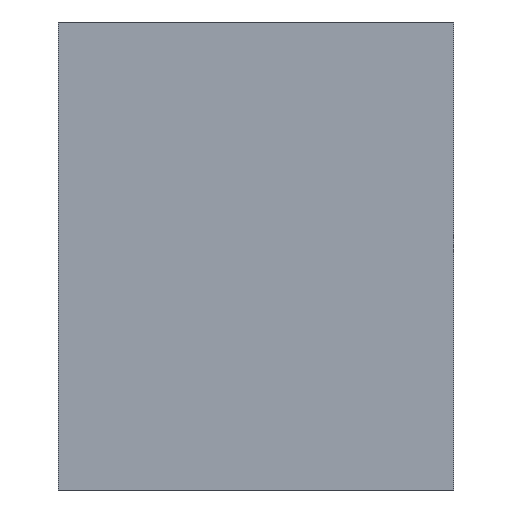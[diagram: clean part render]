
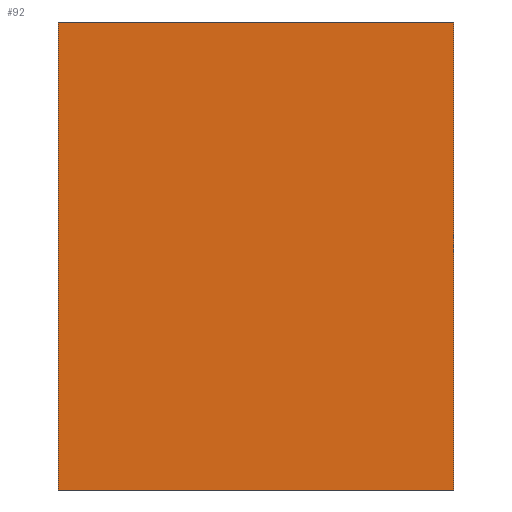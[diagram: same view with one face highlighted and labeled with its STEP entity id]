
A CAD part, top view. The second image highlights one B-rep face of the part: STEP entity #92.
In plain terms, the highlighted planar face has unit normal (0, 0, 1).
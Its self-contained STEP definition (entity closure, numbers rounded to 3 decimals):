
#53=CARTESIAN_POINT('Axis2P3D Location',(0.,0.,0.)) ;
#58=CARTESIAN_POINT('Line Origine',(54.5,0.,0.)) ;
#62=CARTESIAN_POINT('Vertex',(0.,0.,0.)) ;
#64=CARTESIAN_POINT('Vertex',(109.,0.,0.)) ;
#67=CARTESIAN_POINT('Line Origine',(109.,64.5,0.)) ;
#71=CARTESIAN_POINT('Vertex',(109.,129.,0.)) ;
#74=CARTESIAN_POINT('Line Origine',(54.5,129.,0.)) ;
#78=CARTESIAN_POINT('Vertex',(0.,129.,0.)) ;
#81=CARTESIAN_POINT('Line Origine',(0.,64.5,0.)) ;
#54=DIRECTION('Axis2P3D Direction',(0.,0.,1.)) ;
#55=DIRECTION('Axis2P3D XDirection',(1.,0.,0.)) ;
#59=DIRECTION('Vector Direction',(1.,0.,0.)) ;
#68=DIRECTION('Vector Direction',(0.,1.,0.)) ;
#75=DIRECTION('Vector Direction',(-1.,0.,0.)) ;
#82=DIRECTION('Vector Direction',(0.,-1.,0.)) ;
#56=AXIS2_PLACEMENT_3D('Plane Axis2P3D',#53,#54,#55) ;
#87=ORIENTED_EDGE('',*,*,#66,.T.) ;
#88=ORIENTED_EDGE('',*,*,#73,.T.) ;
#89=ORIENTED_EDGE('',*,*,#80,.T.) ;
#90=ORIENTED_EDGE('',*,*,#85,.T.) ;
#60=VECTOR('Line Direction',#59,1.) ;
#69=VECTOR('Line Direction',#68,1.) ;
#76=VECTOR('Line Direction',#75,1.) ;
#83=VECTOR('Line Direction',#82,1.) ;
#92=ADVANCED_FACE('Fill.1',(#91),#57,.T.) ;
#66=EDGE_CURVE('',#63,#65,#61,.T.) ;
#73=EDGE_CURVE('',#65,#72,#70,.T.) ;
#80=EDGE_CURVE('',#72,#79,#77,.T.) ;
#85=EDGE_CURVE('',#79,#63,#84,.T.) ;
#86=EDGE_LOOP('',(#87,#88,#89,#90)) ;
#91=FACE_OUTER_BOUND('',#86,.T.) ;
#61=LINE('Line',#58,#60) ;
#70=LINE('Line',#67,#69) ;
#77=LINE('Line',#74,#76) ;
#84=LINE('Line',#81,#83) ;
#57=PLANE('',#56) ;
#63=VERTEX_POINT('',#62) ;
#65=VERTEX_POINT('',#64) ;
#72=VERTEX_POINT('',#71) ;
#79=VERTEX_POINT('',#78) ;
